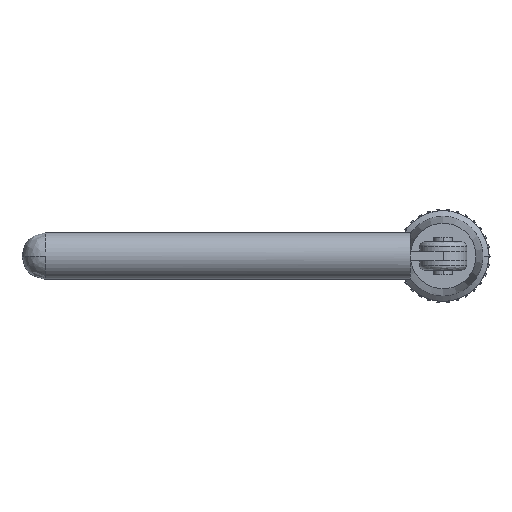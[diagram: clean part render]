
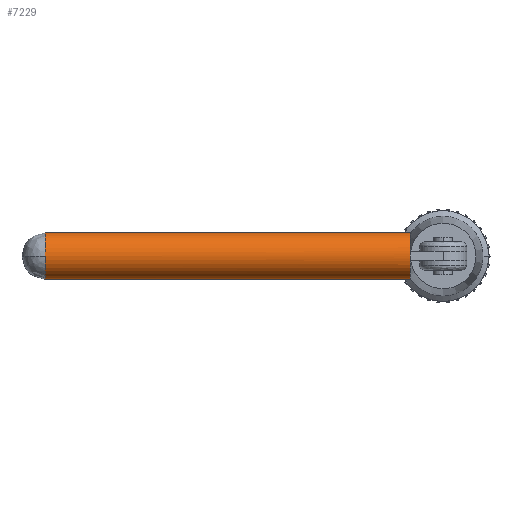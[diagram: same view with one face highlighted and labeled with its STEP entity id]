
A CAD part, left-side view. The second image highlights one B-rep face of the part: STEP entity #7229.
In plain terms, the highlighted cylindrical face has radius 2.5 mm (diameter 5 mm), a partial arc.
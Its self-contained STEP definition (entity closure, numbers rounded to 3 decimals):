
#66 = DIRECTION ( 'NONE',  ( 0., -1., 0. ) ) ;
#549 = AXIS2_PLACEMENT_3D ( 'NONE', #4525, #835, #6245 ) ;
#635 = ORIENTED_EDGE ( 'NONE', *, *, #5236, .T. ) ;
#835 = DIRECTION ( 'NONE',  ( 0., 1., 0. ) ) ;
#958 = CARTESIAN_POINT ( 'NONE',  ( 0., 0., -2.5 ) ) ;
#1253 = CARTESIAN_POINT ( 'NONE',  ( 0., 0., 2.5 ) ) ;
#1338 = EDGE_CURVE ( 'NONE', #2960, #4591, #7778, .T. ) ;
#1407 = AXIS2_PLACEMENT_3D ( 'NONE', #3220, #3823, #4460 ) ;
#1518 = DIRECTION ( 'NONE',  ( 0., -1., 0. ) ) ;
#1575 = DIRECTION ( 'NONE',  ( 0., 0., -1. ) ) ;
#1645 = CIRCLE ( 'NONE', #5317, 2.5 ) ;
#1688 = VERTEX_POINT ( 'NONE', #7001 ) ;
#1772 = ORIENTED_EDGE ( 'NONE', *, *, #4800, .T. ) ;
#1928 = CIRCLE ( 'NONE', #2096, 2.5 ) ;
#2017 = CARTESIAN_POINT ( 'NONE',  ( 0., 0., 0. ) ) ;
#2055 = ORIENTED_EDGE ( 'NONE', *, *, #4427, .F. ) ;
#2096 = AXIS2_PLACEMENT_3D ( 'NONE', #6470, #1518, #1575 ) ;
#2109 = CARTESIAN_POINT ( 'NONE',  ( -2.5, 39., 0. ) ) ;
#2425 = CARTESIAN_POINT ( 'NONE',  ( 0., 39., 2.5 ) ) ;
#2603 = CARTESIAN_POINT ( 'NONE',  ( 0., 0., -2.5 ) ) ;
#2614 = AXIS2_PLACEMENT_3D ( 'NONE', #2017, #3850, #5124 ) ;
#2647 = EDGE_LOOP ( 'NONE', ( #2055, #4074, #4860, #3210, #5401, #635, #1772, #6173 ) ) ;
#2793 = CARTESIAN_POINT ( 'NONE',  ( -2.5, 0., 0. ) ) ;
#2819 = CARTESIAN_POINT ( 'NONE',  ( 0., 39., 0. ) ) ;
#2905 = EDGE_CURVE ( 'NONE', #7917, #5232, #5299, .T. ) ;
#2960 = VERTEX_POINT ( 'NONE', #2109 ) ;
#3210 = ORIENTED_EDGE ( 'NONE', *, *, #7412, .T. ) ;
#3220 = CARTESIAN_POINT ( 'NONE',  ( 0., 0., 0. ) ) ;
#3275 = VECTOR ( 'NONE', #5593, 1000. ) ;
#3369 = LINE ( 'NONE', #5623, #3275 ) ;
#3702 = CARTESIAN_POINT ( 'NONE',  ( 0., 0., 0. ) ) ;
#3771 = CARTESIAN_POINT ( 'NONE',  ( 0., 0., 0. ) ) ;
#3823 = DIRECTION ( 'NONE',  ( 0., 1., 0. ) ) ;
#3849 = CARTESIAN_POINT ( 'NONE',  ( -2.449, 0., 0.5 ) ) ;
#3850 = DIRECTION ( 'NONE',  ( 0., 1., 0. ) ) ;
#3928 = LINE ( 'NONE', #2603, #4303 ) ;
#4037 = CIRCLE ( 'NONE', #2614, 2.5 ) ;
#4074 = ORIENTED_EDGE ( 'NONE', *, *, #4887, .T. ) ;
#4303 = VECTOR ( 'NONE', #5066, 1000. ) ;
#4316 = DIRECTION ( 'NONE',  ( 0., 0., -1. ) ) ;
#4332 = CIRCLE ( 'NONE', #1407, 2.5 ) ;
#4427 = EDGE_CURVE ( 'NONE', #6966, #5232, #3369, .T. ) ;
#4439 = EDGE_CURVE ( 'NONE', #4924, #1688, #1645, .T. ) ;
#4460 = DIRECTION ( 'NONE',  ( 0., 0., -1. ) ) ;
#4516 = AXIS2_PLACEMENT_3D ( 'NONE', #2819, #5297, #5926 ) ;
#4525 = CARTESIAN_POINT ( 'NONE',  ( 0., 0., 0. ) ) ;
#4591 = VERTEX_POINT ( 'NONE', #7253 ) ;
#4800 = EDGE_CURVE ( 'NONE', #6330, #7917, #4332, .T. ) ;
#4860 = ORIENTED_EDGE ( 'NONE', *, *, #1338, .T. ) ;
#4887 = EDGE_CURVE ( 'NONE', #6966, #2960, #1928, .T. ) ;
#4924 = VERTEX_POINT ( 'NONE', #958 ) ;
#5066 = DIRECTION ( 'NONE',  ( 0., -1., 0. ) ) ;
#5124 = DIRECTION ( 'NONE',  ( 0., 0., -1. ) ) ;
#5232 = VERTEX_POINT ( 'NONE', #1253 ) ;
#5236 = EDGE_CURVE ( 'NONE', #1688, #6330, #4037, .T. ) ;
#5297 = DIRECTION ( 'NONE',  ( 0., -1., 0. ) ) ;
#5299 = CIRCLE ( 'NONE', #549, 2.5 ) ;
#5317 = AXIS2_PLACEMENT_3D ( 'NONE', #3702, #6227, #4316 ) ;
#5401 = ORIENTED_EDGE ( 'NONE', *, *, #4439, .T. ) ;
#5593 = DIRECTION ( 'NONE',  ( 0., -1., 0. ) ) ;
#5623 = CARTESIAN_POINT ( 'NONE',  ( 0., 0., 2.5 ) ) ;
#5649 = CYLINDRICAL_SURFACE ( 'NONE', #5761, 2.5 ) ;
#5761 = AXIS2_PLACEMENT_3D ( 'NONE', #3771, #66, #6834 ) ;
#5926 = DIRECTION ( 'NONE',  ( 0., 0., -1. ) ) ;
#6173 = ORIENTED_EDGE ( 'NONE', *, *, #2905, .T. ) ;
#6227 = DIRECTION ( 'NONE',  ( 0., 1., 0. ) ) ;
#6245 = DIRECTION ( 'NONE',  ( 0., 0., -1. ) ) ;
#6330 = VERTEX_POINT ( 'NONE', #2793 ) ;
#6470 = CARTESIAN_POINT ( 'NONE',  ( 0., 39., 0. ) ) ;
#6807 = FACE_OUTER_BOUND ( 'NONE', #2647, .T. ) ;
#6834 = DIRECTION ( 'NONE',  ( 0., 0., -1. ) ) ;
#6966 = VERTEX_POINT ( 'NONE', #2425 ) ;
#7001 = CARTESIAN_POINT ( 'NONE',  ( -2.449, 0., -0.5 ) ) ;
#7229 = ADVANCED_FACE ( 'NONE', ( #6807 ), #5649, .T. ) ;
#7253 = CARTESIAN_POINT ( 'NONE',  ( 0., 39., -2.5 ) ) ;
#7412 = EDGE_CURVE ( 'NONE', #4591, #4924, #3928, .T. ) ;
#7778 = CIRCLE ( 'NONE', #4516, 2.5 ) ;
#7917 = VERTEX_POINT ( 'NONE', #3849 ) ;
